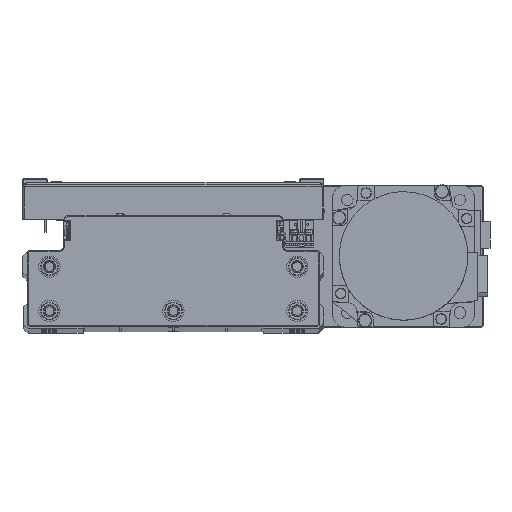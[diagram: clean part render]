
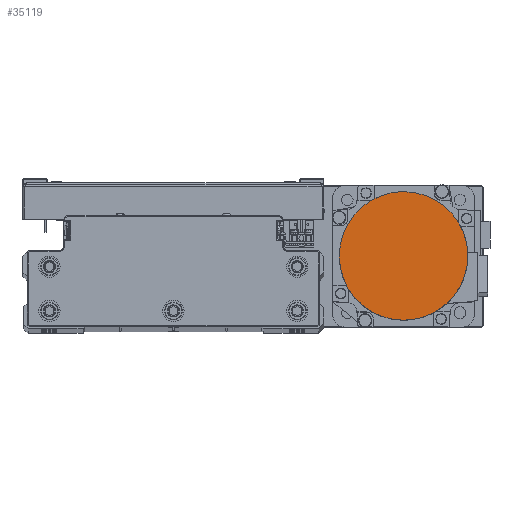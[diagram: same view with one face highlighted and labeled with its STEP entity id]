
A CAD part, top view. The second image highlights one B-rep face of the part: STEP entity #35119.
In plain terms, the highlighted planar face has unit normal (0, 0, 1) as drawn and (0, 0, -1) by its records, which use the part's own axes.
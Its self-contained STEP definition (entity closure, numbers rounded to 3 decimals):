
#1444 = CARTESIAN_POINT ( 'NONE',  ( -36.3, -2.376, -122.2 ) ) ;
#1453 = CARTESIAN_POINT ( 'NONE',  ( -23.988, 27.348, -122.2 ) ) ;
#1669 = CARTESIAN_POINT ( 'NONE',  ( -9.412, -35.139, -122.2 ) ) ;
#1686 = VERTEX_POINT ( 'NONE', #22888 ) ;
#1724 = AXIS2_PLACEMENT_3D ( 'NONE', #30182, #44284, #12575 ) ;
#1962 = FACE_OUTER_BOUND ( 'NONE', #15277, .T. ) ;
#4943 = CARTESIAN_POINT ( 'NONE',  ( -16.086, 32.628, -122.2 ) ) ;
#5156 = CARTESIAN_POINT ( 'NONE',  ( -18.192, -31.502, -122.2 ) ) ;
#5529 = ORIENTED_EDGE ( 'NONE', *, *, #9820, .F. ) ;
#5682 = CARTESIAN_POINT ( 'NONE',  ( 0., 0., -122.2 ) ) ;
#6022 = CARTESIAN_POINT ( 'NONE',  ( 0., 0., -122.2 ) ) ;
#8389 = CARTESIAN_POINT ( 'NONE',  ( -4.752, 36.066, -122.2 ) ) ;
#8634 = CARTESIAN_POINT ( 'NONE',  ( -27.348, -23.988, -122.2 ) ) ;
#8643 = CARTESIAN_POINT ( 'NONE',  ( -36.066, 4.752, -122.2 ) ) ;
#9820 = EDGE_CURVE ( 'NONE', #43737, #30253, #42281, .T. ) ;
#10082 = CIRCLE ( 'NONE', #15991, 36.3 ) ;
#11670 = B_SPLINE_CURVE_WITH_KNOTS ( 'NONE', 3,
 ( #25961, #40079, #8389, #22500, #36627, #4943, #19032, #33150, #1453, #15550, #29671, #43775, #12079, #26198, #40332, #8643, #22744, #36863 ),
 .UNSPECIFIED., .F., .F.,
 ( 4, 2, 2, 2, 2, 2, 2, 2, 4 ),
 ( 0., 0.125, 0.25, 0.375, 0.5, 0.625, 0.75, 0.875, 1. ),
 .UNSPECIFIED. ) ;
#12069 = CARTESIAN_POINT ( 'NONE',  ( -32.628, -16.086, -122.2 ) ) ;
#12079 = CARTESIAN_POINT ( 'NONE',  ( -32.628, 16.086, -122.2 ) ) ;
#12575 = DIRECTION ( 'NONE',  ( 1., 0., 0. ) ) ;
#13026 = EDGE_CURVE ( 'NONE', #30253, #28649, #15082, .T. ) ;
#15082 = CIRCLE ( 'NONE', #40961, 36.3 ) ;
#15277 = EDGE_LOOP ( 'NONE', ( #41884, #5529, #26189, #29971 ) ) ;
#15541 = CARTESIAN_POINT ( 'NONE',  ( -36.066, -4.752, -122.2 ) ) ;
#15550 = CARTESIAN_POINT ( 'NONE',  ( -27.348, 23.988, -122.2 ) ) ;
#15772 = CARTESIAN_POINT ( 'NONE',  ( -4.752, -36.066, -122.2 ) ) ;
#15991 = AXIS2_PLACEMENT_3D ( 'NONE', #6022, #20118, #34252 ) ;
#16061 = PLANE ( 'NONE',  #1724 ) ;
#19032 = CARTESIAN_POINT ( 'NONE',  ( -18.192, 31.502, -122.2 ) ) ;
#19242 = CARTESIAN_POINT ( 'NONE',  ( -16.086, -32.628, -122.2 ) ) ;
#19771 = DIRECTION ( 'NONE',  ( 0., 0., 1. ) ) ;
#20118 = DIRECTION ( 'NONE',  ( 0., 0., 1. ) ) ;
#21879 = EDGE_CURVE ( 'NONE', #28649, #1686, #10082, .T. ) ;
#22500 = CARTESIAN_POINT ( 'NONE',  ( -9.412, 35.139, -122.2 ) ) ;
#22736 = CARTESIAN_POINT ( 'NONE',  ( -23.988, -27.348, -122.2 ) ) ;
#22744 = CARTESIAN_POINT ( 'NONE',  ( -36.3, 2.376, -122.2 ) ) ;
#22888 = CARTESIAN_POINT ( 'NONE',  ( 0., 36.3, -122.2 ) ) ;
#25961 = CARTESIAN_POINT ( 'NONE',  ( 0., 36.3, -122.2 ) ) ;
#26189 = ORIENTED_EDGE ( 'NONE', *, *, #41469, .F. ) ;
#26191 = CARTESIAN_POINT ( 'NONE',  ( -31.502, -18.192, -122.2 ) ) ;
#26198 = CARTESIAN_POINT ( 'NONE',  ( -34.446, 11.696, -122.2 ) ) ;
#28649 = VERTEX_POINT ( 'NONE', #37003 ) ;
#29662 = CARTESIAN_POINT ( 'NONE',  ( -35.139, -9.412, -122.2 ) ) ;
#29671 = CARTESIAN_POINT ( 'NONE',  ( -28.862, 22.143, -122.2 ) ) ;
#29908 = CARTESIAN_POINT ( 'NONE',  ( -2.376, -36.3, -122.2 ) ) ;
#29971 = ORIENTED_EDGE ( 'NONE', *, *, #21879, .F. ) ;
#30182 = CARTESIAN_POINT ( 'NONE',  ( 0., 0., -122.2 ) ) ;
#30253 = VERTEX_POINT ( 'NONE', #41503 ) ;
#33142 = CARTESIAN_POINT ( 'NONE',  ( -36.3, 0., -122.2 ) ) ;
#33150 = CARTESIAN_POINT ( 'NONE',  ( -22.143, 28.862, -122.2 ) ) ;
#33360 = CARTESIAN_POINT ( 'NONE',  ( -11.696, -34.446, -122.2 ) ) ;
#33893 = DIRECTION ( 'NONE',  ( -1., 0., 0. ) ) ;
#34252 = DIRECTION ( 'NONE',  ( -1., 0., 0. ) ) ;
#35119 = ADVANCED_FACE ( 'NONE', ( #1962 ), #16061, .F. ) ;
#36627 = CARTESIAN_POINT ( 'NONE',  ( -11.696, 34.446, -122.2 ) ) ;
#36854 = CARTESIAN_POINT ( 'NONE',  ( -22.143, -28.862, -122.2 ) ) ;
#36863 = CARTESIAN_POINT ( 'NONE',  ( -36.3, 0., -122.2 ) ) ;
#37003 = CARTESIAN_POINT ( 'NONE',  ( 36.3, 0., -122.2 ) ) ;
#39033 = CARTESIAN_POINT ( 'NONE',  ( -36.3, 0., -122.2 ) ) ;
#40079 = CARTESIAN_POINT ( 'NONE',  ( -2.376, 36.3, -122.2 ) ) ;
#40323 = CARTESIAN_POINT ( 'NONE',  ( -28.862, -22.143, -122.2 ) ) ;
#40332 = CARTESIAN_POINT ( 'NONE',  ( -35.139, 9.412, -122.2 ) ) ;
#40961 = AXIS2_PLACEMENT_3D ( 'NONE', #5682, #19771, #33893 ) ;
#41469 = EDGE_CURVE ( 'NONE', #1686, #43737, #11670, .T. ) ;
#41503 = CARTESIAN_POINT ( 'NONE',  ( 0., -36.3, -122.2 ) ) ;
#41884 = ORIENTED_EDGE ( 'NONE', *, *, #13026, .F. ) ;
#42281 = B_SPLINE_CURVE_WITH_KNOTS ( 'NONE', 3,
 ( #33142, #1444, #15541, #29662, #43766, #12069, #26191, #40323, #8634, #22736, #36854, #5156, #19242, #33360, #1669, #15772, #29908, #44020 ),
 .UNSPECIFIED., .F., .F.,
 ( 4, 2, 2, 2, 2, 2, 2, 2, 4 ),
 ( 0., 0.125, 0.25, 0.375, 0.5, 0.625, 0.75, 0.875, 1. ),
 .UNSPECIFIED. ) ;
#43737 = VERTEX_POINT ( 'NONE', #39033 ) ;
#43766 = CARTESIAN_POINT ( 'NONE',  ( -34.446, -11.696, -122.2 ) ) ;
#43775 = CARTESIAN_POINT ( 'NONE',  ( -31.502, 18.192, -122.2 ) ) ;
#44020 = CARTESIAN_POINT ( 'NONE',  ( 0., -36.3, -122.2 ) ) ;
#44284 = DIRECTION ( 'NONE',  ( 0., 0., 1. ) ) ;
